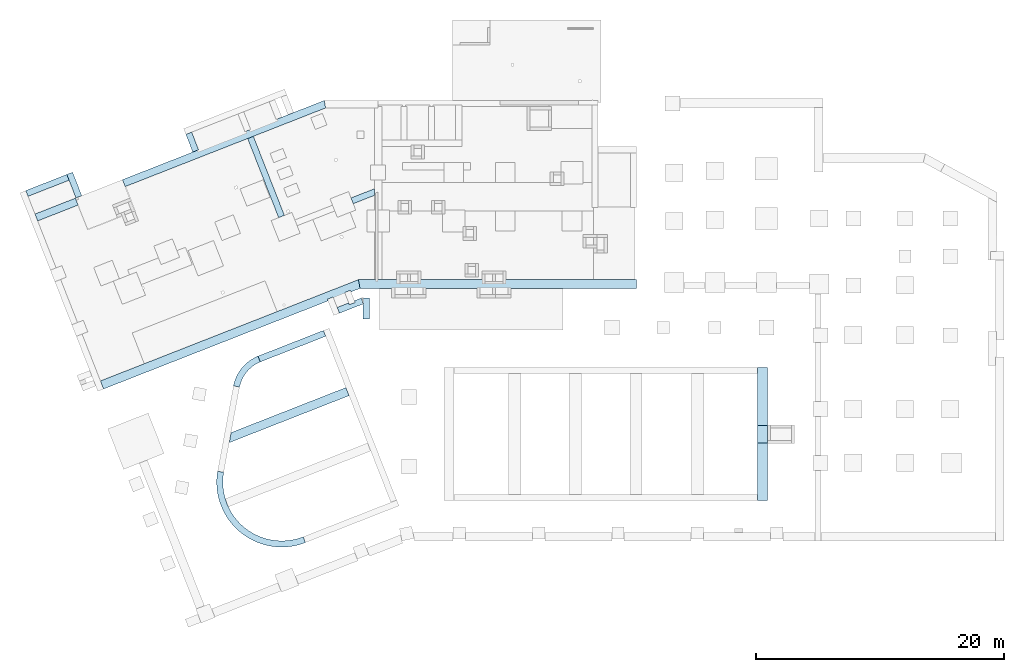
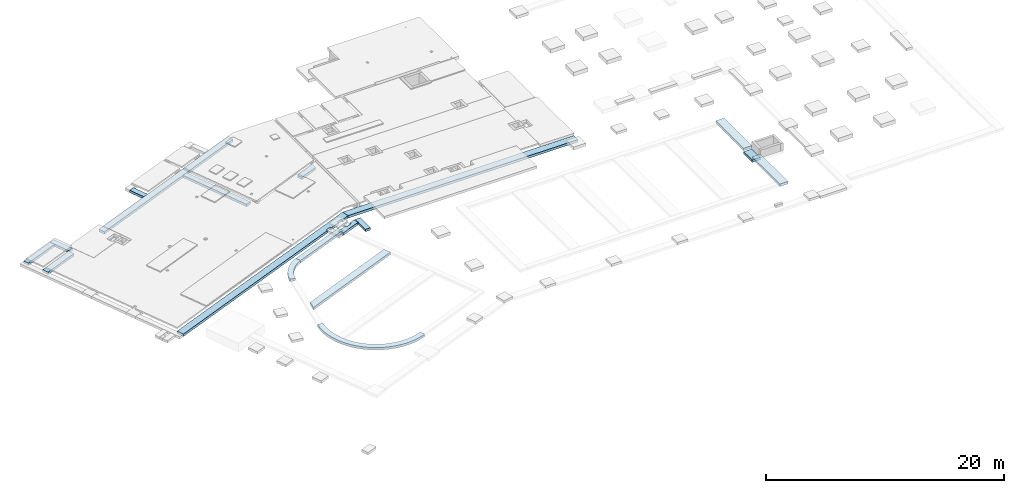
# One storey, part 7 of 9: 17 footings.
"""IFC2X3 building model written with IfcOpenShell, lengths in metres."""

from ifc_helpers import new_model, entity, si_unit, converted_unit, direction, frame, origin, place, context, subcontext, project, spatial, faceted_brep, material, element, save


model = new_model("IFC2X3")

# Units and contexts
model_context = context("Model", 3, precision=1e-05, world=origin(), true_north=direction((-0.407059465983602, -0.913401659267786)))
body_context = subcontext(model_context, "Body", "Model", "MODEL_VIEW")
ifc_project = project(units=[si_unit("LENGTHUNIT", "METRE"), si_unit("AREAUNIT", "SQUARE_METRE"), si_unit("VOLUMEUNIT", "CUBIC_METRE"), si_unit("MASSUNIT", "GRAM", prefix="KILO"), converted_unit("PLANEANGLEUNIT", "DEGREE", entity("IfcPlaneAngleMeasure", 0.0174532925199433), si_unit("PLANEANGLEUNIT", "RADIAN"), dimensions=[0, 0, 0, 0, 0, 0, 0])], contexts=[model_context])

# Site, buildings, storey
site_placement = place(None, origin())
site = spatial("IfcSite", under=ifc_project, at=site_placement, Name="Site", CompositionType="ELEMENT")
building_1_placement = place(site_placement, origin())
building_1 = spatial("IfcBuilding", under=site, at=building_1_placement, Name="Site", CompositionType="COMPLEX")
building_2_placement = place(building_1_placement, origin())
building_2 = spatial("IfcBuilding", under=building_1, at=building_2_placement, Name="Bâtiments", CompositionType="ELEMENT")
storey_placement = place(building_2_placement, frame((0.0, 0.0, -7.1)))
storey = spatial("IfcBuildingStorey", under=building_2, at=storey_placement, Name="FONDATIONS", CompositionType="ELEMENT", Elevation=-7.1)

# Footings
ifc_material_1 = material(Name="Béton")
footing_1_placement = place(storey_placement, frame((14.8590872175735, -26.4269474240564, 3.36)))
element("IfcFooting", 1, at=footing_1_placement, inside=storey, material=ifc_material_1, Name="SF001", PredefinedType="STRIP_FOOTING", context=body_context, shape_type="Brep", body=[
    faceted_brep([(0.51299385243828, 5.61274834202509, 0.0), (0.538945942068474, 5.85966598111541, 0.0), (0.565284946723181, 6.02596391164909, 0.0), (0.0721705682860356, 6.10878886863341, 0.0), (0.0430535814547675, 5.92495144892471, 0.0), (0.0143643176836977, 5.65199133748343, 0.0), (1.81898940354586e-15, 5.37790382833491, 0.0), (1.81898940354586e-15, 5.10344017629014, 0.0), (0.0143643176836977, 4.82935266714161, 0.0), (0.0430535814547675, 4.55639255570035, 0.0), (0.0859891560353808, 4.28530800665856, 0.0), (0.143053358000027, 4.01684204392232, 0.0), (0.214089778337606, 3.75173051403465, 0.0), (0.298903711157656, 3.49070006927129, 0.0), (0.397262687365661, 3.23446617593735, 0.0), (0.508897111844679, 2.98373115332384, 0.0), (0.633501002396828, 2.73918224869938, 0.0), (0.770732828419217, 2.50148975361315, 0.0), (0.920216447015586, 2.27130516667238, 0.0), (1.08154213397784, 2.04925940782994, 0.0), (1.25426770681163, 1.83596108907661, 0.0), (1.43791973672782, 1.6319948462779, 0.0), (1.6319948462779, 1.43791973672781, 0.0), (1.83596108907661, 1.25426770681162, 0.0), (2.04925940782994, 1.08154213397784, 0.0), (2.27130516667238, 0.92021644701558, 0.0), (2.50148975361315, 0.770732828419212, 0.0), (2.73918224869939, 0.633501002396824, 0.0), (2.98373115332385, 0.508897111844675, 0.0), (3.23446617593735, 0.397262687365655, 0.0), (3.4907000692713, 0.298903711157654, 0.0), (3.75173051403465, 0.214089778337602, 0.0), (4.01684204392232, 0.143053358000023, 0.0), (4.28530800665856, 0.0859891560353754, 0.0), (4.55639255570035, 0.0430535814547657, 0.0), (4.82935266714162, 0.0143643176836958, 0.0), (5.10344017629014, 0.0, 0.0), (5.37790382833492, 0.0, 0.0), (5.65199133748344, 0.0143643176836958, 0.0), (5.92495144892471, 0.0430535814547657, 0.0), (6.1960359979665, 0.0859891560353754, 0.0), (6.46450196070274, 0.143053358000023, 0.0), (6.72961349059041, 0.214089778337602, 0.0), (6.99064393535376, 0.298903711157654, 0.0), (7.15428268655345, 0.361718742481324, 0.0), (6.97170966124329, 0.827208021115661, 0.0), (6.8236832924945, 0.770386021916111, 0.0), (6.58755713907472, 0.69366398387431, 0.0), (6.3477392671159, 0.629404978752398, 0.0), (6.10488700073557, 0.577785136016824, 0.0), (5.8596659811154, 0.538945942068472, 0.0), (5.61274834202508, 0.512993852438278, 0.0), (5.36481086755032, 0.500000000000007, 0.0), (5.11653313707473, 0.500000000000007, 0.0), (4.86859566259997, 0.512993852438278, 0.0), (4.62167802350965, 0.538945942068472, 0.0), (4.37645700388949, 0.577785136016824, 0.0), (4.13360473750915, 0.629404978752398, 0.0), (3.89378686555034, 0.693663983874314, 0.0), (3.65766071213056, 0.770386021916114, 0.0), (3.42587348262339, 0.859360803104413, 0.0), (3.1990604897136, 0.960344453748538, 0.0), (2.97784341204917, 1.07306018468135, 0.0), (2.76282859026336, 1.19719904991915, 0.0), (2.5546053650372, 1.33242079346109, 0.0), (2.3537444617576, 1.47835478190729, 0.0), (2.16079642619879, 1.63460102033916, 0.0), (1.97629011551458, 1.80073124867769, 0.0), (1.80073124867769, 1.97629011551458, 0.0), (1.63460102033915, 2.16079642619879, 0.0), (1.47835478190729, 2.3537444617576, 0.0), (1.33242079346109, 2.5546053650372, 0.0), (1.19719904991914, 2.76282859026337, 0.0), (1.07306018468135, 2.97784341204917, 0.0), (0.960344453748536, 3.19906048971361, 0.0), (0.859360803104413, 3.4258734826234, 0.0), (0.770386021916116, 3.65766071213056, 0.0), (0.693663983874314, 3.89378686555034, 0.0), (0.6294049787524, 4.13360473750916, 0.0), (0.577785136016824, 4.37645700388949, 0.0), (0.538945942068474, 4.62167802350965, 0.0), (0.512993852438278, 4.86859566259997, 0.0), (0.500000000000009, 5.11653313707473, 0.0), (0.500000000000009, 5.36481086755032, 0.0), (0.538945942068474, 5.85966598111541, 0.25), (0.51299385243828, 5.61274834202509, 0.25), (0.500000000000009, 5.36481086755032, 0.25), (0.500000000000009, 5.11653313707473, 0.25), (0.512993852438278, 4.86859566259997, 0.25), (0.538945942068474, 4.62167802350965, 0.25), (0.577785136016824, 4.37645700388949, 0.25), (0.6294049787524, 4.13360473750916, 0.25), (0.693663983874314, 3.89378686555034, 0.25), (0.770386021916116, 3.65766071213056, 0.25), (0.859360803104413, 3.4258734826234, 0.25), (0.960344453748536, 3.19906048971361, 0.25), (1.07306018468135, 2.97784341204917, 0.25), (1.19719904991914, 2.76282859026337, 0.25), (1.33242079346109, 2.5546053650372, 0.25), (1.47835478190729, 2.3537444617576, 0.25), (1.63460102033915, 2.16079642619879, 0.25), (1.80073124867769, 1.97629011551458, 0.25), (1.97629011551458, 1.80073124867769, 0.25), (2.16079642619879, 1.63460102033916, 0.25), (2.3537444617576, 1.47835478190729, 0.25), (2.5546053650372, 1.33242079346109, 0.25), (2.76282859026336, 1.19719904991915, 0.25), (2.97784341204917, 1.07306018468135, 0.25), (3.1990604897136, 0.960344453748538, 0.25), (3.42587348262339, 0.859360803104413, 0.25), (3.65766071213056, 0.770386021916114, 0.25), (3.89378686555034, 0.693663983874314, 0.25), (4.13360473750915, 0.629404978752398, 0.25), (4.37645700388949, 0.577785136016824, 0.25), (4.62167802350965, 0.538945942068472, 0.25), (4.86859566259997, 0.512993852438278, 0.25), (5.11653313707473, 0.500000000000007, 0.25), (5.36481086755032, 0.500000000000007, 0.25), (5.61274834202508, 0.512993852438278, 0.25), (5.8596659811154, 0.538945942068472, 0.25), (6.10488700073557, 0.577785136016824, 0.25), (6.3477392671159, 0.629404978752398, 0.25), (6.58755713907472, 0.69366398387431, 0.25), (6.8236832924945, 0.770386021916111, 0.25), (6.97170966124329, 0.827208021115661, 0.25), (7.15428268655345, 0.361718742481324, 0.25), (6.99064393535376, 0.298903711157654, 0.25), (6.72961349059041, 0.214089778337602, 0.25), (6.46450196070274, 0.143053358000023, 0.25), (6.1960359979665, 0.0859891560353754, 0.25), (5.92495144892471, 0.0430535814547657, 0.25), (5.65199133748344, 0.0143643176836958, 0.25), (5.37790382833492, 0.0, 0.25), (5.10344017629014, 0.0, 0.25), (4.82935266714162, 0.0143643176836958, 0.25), (4.55639255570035, 0.0430535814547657, 0.25), (4.28530800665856, 0.0859891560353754, 0.25), (4.01684204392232, 0.143053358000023, 0.25), (3.75173051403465, 0.214089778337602, 0.25), (3.4907000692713, 0.298903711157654, 0.25), (3.23446617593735, 0.397262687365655, 0.25), (2.98373115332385, 0.508897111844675, 0.25), (2.73918224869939, 0.633501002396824, 0.25), (2.50148975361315, 0.770732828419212, 0.25), (2.27130516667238, 0.92021644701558, 0.25), (2.04925940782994, 1.08154213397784, 0.25), (1.83596108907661, 1.25426770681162, 0.25), (1.6319948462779, 1.43791973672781, 0.25), (1.43791973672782, 1.6319948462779, 0.25), (1.25426770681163, 1.83596108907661, 0.25), (1.08154213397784, 2.04925940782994, 0.25), (0.920216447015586, 2.27130516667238, 0.25), (0.770732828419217, 2.50148975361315, 0.25), (0.633501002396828, 2.73918224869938, 0.25), (0.508897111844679, 2.98373115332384, 0.25), (0.397262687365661, 3.23446617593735, 0.25), (0.298903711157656, 3.49070006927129, 0.25), (0.214089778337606, 3.75173051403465, 0.25), (0.143053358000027, 4.01684204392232, 0.25), (0.0859891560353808, 4.28530800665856, 0.25), (0.0430535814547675, 4.55639255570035, 0.25), (0.0143643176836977, 4.82935266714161, 0.25), (1.81898940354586e-15, 5.10344017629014, 0.25), (1.81898940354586e-15, 5.37790382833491, 0.25), (0.0143643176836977, 5.65199133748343, 0.25), (0.0430535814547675, 5.92495144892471, 0.25), (0.0721705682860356, 6.10878886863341, 0.25), (0.565284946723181, 6.02596391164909, 0.25)], [[[0, 1, 2, 3, 4, 5, 6, 7, 8, 9, 10, 11, 12, 13, 14, 15, 16, 17, 18, 19, 20, 21, 22, 23, 24, 25, 26, 27, 28, 29, 30, 31, 32, 33, 34, 35, 36, 37, 38, 39, 40, 41, 42, 43, 44, 45, 46, 47, 48, 49, 50, 51, 52, 53, 54, 55, 56, 57, 58, 59, 60, 61, 62, 63, 64, 65, 66, 67, 68, 69, 70, 71, 72, 73, 74, 75, 76, 77, 78, 79, 80, 81, 82, 83]], [[84, 85, 86, 87, 88, 89, 90, 91, 92, 93, 94, 95, 96, 97, 98, 99, 100, 101, 102, 103, 104, 105, 106, 107, 108, 109, 110, 111, 112, 113, 114, 115, 116, 117, 118, 119, 120, 121, 122, 123, 124, 125, 126, 127, 128, 129, 130, 131, 132, 133, 134, 135, 136, 137, 138, 139, 140, 141, 142, 143, 144, 145, 146, 147, 148, 149, 150, 151, 152, 153, 154, 155, 156, 157, 158, 159, 160, 161, 162, 163, 164, 165, 166, 167]], [[1, 0, 85, 84]], [[2, 1, 84, 167]], [[3, 2, 167, 166]], [[4, 3, 166, 165]], [[5, 4, 165, 164]], [[6, 5, 164, 163]], [[7, 6, 163, 162]], [[8, 7, 162, 161]], [[9, 8, 161, 160]], [[10, 9, 160, 159]], [[11, 10, 159, 158]], [[12, 11, 158, 157]], [[13, 12, 157, 156]], [[14, 13, 156, 155]], [[15, 14, 155, 154]], [[16, 15, 154, 153]], [[17, 16, 153, 152]], [[18, 17, 152, 151]], [[19, 18, 151, 150]], [[20, 19, 150, 149]], [[21, 20, 149, 148]], [[22, 21, 148, 147]], [[23, 22, 147, 146]], [[24, 23, 146, 145]], [[25, 24, 145, 144]], [[26, 25, 144, 143]], [[27, 26, 143, 142]], [[28, 27, 142, 141]], [[29, 28, 141, 140]], [[30, 29, 140, 139]], [[31, 30, 139, 138]], [[32, 31, 138, 137]], [[33, 32, 137, 136]], [[34, 33, 136, 135]], [[35, 34, 135, 134]], [[36, 35, 134, 133]], [[37, 36, 133, 132]], [[38, 37, 132, 131]], [[39, 38, 131, 130]], [[40, 39, 130, 129]], [[41, 40, 129, 128]], [[42, 41, 128, 127]], [[43, 42, 127, 126]], [[44, 43, 126, 125]], [[45, 44, 125, 124]], [[46, 45, 124, 123]], [[47, 46, 123, 122]], [[48, 47, 122, 121]], [[49, 48, 121, 120]], [[50, 49, 120, 119]], [[51, 50, 119, 118]], [[52, 51, 118, 117]], [[53, 52, 117, 116]], [[54, 53, 116, 115]], [[55, 54, 115, 114]], [[56, 55, 114, 113]], [[57, 56, 113, 112]], [[58, 57, 112, 111]], [[59, 58, 111, 110]], [[60, 59, 110, 109]], [[61, 60, 109, 108]], [[62, 61, 108, 107]], [[63, 62, 107, 106]], [[64, 63, 106, 105]], [[65, 64, 105, 104]], [[66, 65, 104, 103]], [[67, 66, 103, 102]], [[68, 67, 102, 101]], [[69, 68, 101, 100]], [[70, 69, 100, 99]], [[71, 70, 99, 98]], [[72, 71, 98, 97]], [[73, 72, 97, 96]], [[74, 73, 96, 95]], [[75, 74, 95, 94]], [[76, 75, 94, 93]], [[77, 76, 93, 92]], [[78, 77, 92, 91]], [[79, 78, 91, 90]], [[80, 79, 90, 89]], [[81, 80, 89, 88]], [[82, 81, 88, 87]], [[83, 82, 87, 86]], [[0, 83, 86, 85]]], orient=[[False], [False], [False], [False], [False], [False], [False], [False], [False], [False], [False], [False], [False], [False], [False], [False], [False], [False], [False], [False], [False], [False], [False], [False], [False], [False], [False], [False], [False], [False], [False], [False], [False], [False], [False], [False], [False], [False], [False], [False], [False], [False], [False], [False], [False], [False], [False], [False], [False], [False], [False], [False], [False], [False], [False], [False], [False], [False], [False], [False], [False], [False], [False], [False], [False], [False], [False], [False], [False], [False], [False], [False], [False], [False], [False], [False], [False], [False], [False], [False], [False], [False], [False], [False], [False], [False]]),
])
ifc_material_2 = material(Name="Béton")
footing_2_placement = place(storey_placement, frame((15.8691564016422, -18.0152574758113, 3.36)))
element("IfcFooting", 2, at=footing_2_placement, inside=storey, material=ifc_material_2, Name="SF003-A", PredefinedType="STRIP_FOOTING", context=body_context, shape_type="Brep", body=[
    faceted_brep([(9.65526018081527, 3.78827651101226, 0.0), (9.39958609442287, 4.43991349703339, 0.0), (0.151164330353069, 0.811261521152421, 0.0), (-1.81898940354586e-15, 0.0, 0.0), (9.39958609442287, 4.43991349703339, 0.25), (9.65526018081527, 3.78827651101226, 0.25), (-1.81898940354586e-15, 0.0, 0.25), (0.151164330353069, 0.811261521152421, 0.25)], [[[0, 1, 2, 3]], [[4, 5, 6, 7]], [[1, 0, 5, 4]], [[2, 1, 4, 7]], [[3, 2, 7, 6]], [[0, 3, 6, 5]]], orient=[[False], [False], [False], [False], [False], [False]]),
])
ifc_material_3 = material(Name="Béton")
footing_3_placement = place(storey_placement, frame((18.1822885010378, -11.5168772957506, 3.36)))
element("IfcFooting", 3, at=footing_3_placement, inside=storey, material=ifc_material_3, Name="SF001", PredefinedType="STRIP_FOOTING", context=body_context, shape_type="Brep", body=[
    faceted_brep([(5.46331095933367, 2.07844077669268, 0.0), (5.28068661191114, 2.54389576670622, 0.0), (3.63797880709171e-15, 0.471983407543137, 0.0), (0.189929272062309, 0.0102719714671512, 0.0), (0.183597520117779, 0.00784143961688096, 0.0), (0.165985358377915, 0.0, 0.0), (5.28068661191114, 2.54389576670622, 0.25), (5.46331095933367, 2.07844077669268, 0.25), (0.165985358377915, 0.0, 0.25), (0.183597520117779, 0.00784143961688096, 0.25), (0.189929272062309, 0.0102719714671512, 0.25), (3.63797880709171e-15, 0.471983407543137, 0.25)], [[[0, 1, 2, 3, 4, 5]], [[6, 7, 8, 9, 10, 11]], [[1, 0, 7, 6]], [[2, 1, 6, 11]], [[3, 2, 11, 10]], [[4, 3, 10, 9]], [[5, 4, 9, 8]], [[0, 5, 8, 7]]], orient=[[False], [False], [False], [False], [False], [False], [False], [False]]),
])
ifc_material_4 = material(Name="Béton")
footing_4_placement = place(storey_placement, frame((16.2132090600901, -13.5357025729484, 3.36)))
element("IfcFooting", 4, at=footing_4_placement, inside=storey, material=ifc_material_4, Name="SF001", PredefinedType="STRIP_FOOTING", context=body_context, shape_type="Brep", body=[
    faceted_brep([(2.15900871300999, 2.02909724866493, 0.0), (1.9687405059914, 2.49163262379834, 0.0), (1.96126965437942, 2.48876483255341, 0.0), (1.80437562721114, 2.41891111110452, 0.0), (1.65135247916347, 2.34094192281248, 0.0), (1.5026196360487, 2.25507097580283, 0.0), (1.35858476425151, 2.1615336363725, 0.0), (1.21964265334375, 2.06058628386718, 0.0), (1.08617413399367, 1.95250560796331, 0.0), (0.958545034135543, 1.83758785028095, 0.0), (0.837105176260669, 1.71614799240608, 0.0), (0.722187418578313, 1.58851889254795, 0.0), (0.614106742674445, 1.45505037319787, 0.0), (0.513159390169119, 1.31610826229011, 0.0), (0.419622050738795, 1.17207339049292, 0.0), (0.333751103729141, 1.02334054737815, 0.0), (0.255781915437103, 0.870317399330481, 0.0), (0.185928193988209, 0.71342337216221, 0.0), (0.124381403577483, 0.553088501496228, 0.0), (0.0713102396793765, 0.389752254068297, 0.0), (0.026860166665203, 0.223862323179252, 0.0), (1.81898940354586e-15, 0.0974951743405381, 0.0), (0.490447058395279, 0.0, 0.0), (0.513211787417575, 0.107099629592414, 0.0), (0.550884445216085, 0.247695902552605, 0.0), (0.595863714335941, 0.386127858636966, 0.0), (0.648026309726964, 0.52201606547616, 0.0), (0.707229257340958, 0.654988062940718, 0.0), (0.773310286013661, 0.784679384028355, 0.0), (0.846088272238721, 0.910734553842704, 0.0), (0.925363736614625, 1.03280806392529, 0.0), (1.0109193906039, 1.15056531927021, 0.0), (1.10252073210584, 1.26368355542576, 0.0), (1.19991668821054, 1.3718527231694, 0.0), (1.30284030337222, 1.47477633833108, 0.0), (1.41100947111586, 1.57217229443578, 0.0), (1.52412770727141, 1.66377363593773, 0.0), (1.64188496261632, 1.74932928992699, 0.0), (1.76395847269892, 1.8286047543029, 0.0), (1.89001364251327, 1.90138274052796, 0.0), (2.0197049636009, 1.96746376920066, 0.0), (2.15267696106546, 2.02666671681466, 0.0), (1.9687405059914, 2.49163262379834, 0.25), (2.15900871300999, 2.02909724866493, 0.25), (2.15267696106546, 2.02666671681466, 0.25), (2.0197049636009, 1.96746376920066, 0.25), (1.89001364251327, 1.90138274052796, 0.25), (1.76395847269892, 1.8286047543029, 0.25), (1.64188496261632, 1.74932928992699, 0.25), (1.52412770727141, 1.66377363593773, 0.25), (1.41100947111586, 1.57217229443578, 0.25), (1.30284030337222, 1.47477633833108, 0.25), (1.19991668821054, 1.3718527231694, 0.25), (1.10252073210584, 1.26368355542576, 0.25), (1.0109193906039, 1.15056531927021, 0.25), (0.925363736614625, 1.03280806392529, 0.25), (0.846088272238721, 0.910734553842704, 0.25), (0.773310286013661, 0.784679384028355, 0.25), (0.707229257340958, 0.654988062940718, 0.25), (0.648026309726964, 0.52201606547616, 0.25), (0.595863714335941, 0.386127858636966, 0.25), (0.550884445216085, 0.247695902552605, 0.25), (0.513211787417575, 0.107099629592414, 0.25), (0.490447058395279, 0.0, 0.25), (1.81898940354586e-15, 0.0974951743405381, 0.25), (0.026860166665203, 0.223862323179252, 0.25), (0.0713102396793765, 0.389752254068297, 0.25), (0.124381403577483, 0.553088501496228, 0.25), (0.185928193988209, 0.71342337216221, 0.25), (0.255781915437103, 0.870317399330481, 0.25), (0.333751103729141, 1.02334054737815, 0.25), (0.419622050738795, 1.17207339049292, 0.25), (0.513159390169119, 1.31610826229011, 0.25), (0.614106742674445, 1.45505037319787, 0.25), (0.722187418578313, 1.58851889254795, 0.25), (0.837105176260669, 1.71614799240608, 0.25), (0.958545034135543, 1.83758785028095, 0.25), (1.08617413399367, 1.95250560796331, 0.25), (1.21964265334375, 2.06058628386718, 0.25), (1.35858476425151, 2.1615336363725, 0.25), (1.5026196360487, 2.25507097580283, 0.25), (1.65135247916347, 2.34094192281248, 0.25), (1.80437562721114, 2.41891111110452, 0.25), (1.96126965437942, 2.48876483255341, 0.25)], [[[0, 1, 2, 3, 4, 5, 6, 7, 8, 9, 10, 11, 12, 13, 14, 15, 16, 17, 18, 19, 20, 21, 22, 23, 24, 25, 26, 27, 28, 29, 30, 31, 32, 33, 34, 35, 36, 37, 38, 39, 40, 41]], [[42, 43, 44, 45, 46, 47, 48, 49, 50, 51, 52, 53, 54, 55, 56, 57, 58, 59, 60, 61, 62, 63, 64, 65, 66, 67, 68, 69, 70, 71, 72, 73, 74, 75, 76, 77, 78, 79, 80, 81, 82, 83]], [[1, 0, 43, 42]], [[2, 1, 42, 83]], [[3, 2, 83, 82]], [[4, 3, 82, 81]], [[5, 4, 81, 80]], [[6, 5, 80, 79]], [[7, 6, 79, 78]], [[8, 7, 78, 77]], [[9, 8, 77, 76]], [[10, 9, 76, 75]], [[11, 10, 75, 74]], [[12, 11, 74, 73]], [[13, 12, 73, 72]], [[14, 13, 72, 71]], [[15, 14, 71, 70]], [[16, 15, 70, 69]], [[17, 16, 69, 68]], [[18, 17, 68, 67]], [[19, 18, 67, 66]], [[20, 19, 66, 65]], [[21, 20, 65, 64]], [[22, 21, 64, 63]], [[23, 22, 63, 62]], [[24, 23, 62, 61]], [[25, 24, 61, 60]], [[26, 25, 60, 59]], [[27, 26, 59, 58]], [[28, 27, 58, 57]], [[29, 28, 57, 56]], [[30, 29, 56, 55]], [[31, 30, 55, 54]], [[32, 31, 54, 53]], [[33, 32, 53, 52]], [[34, 33, 52, 51]], [[35, 34, 51, 50]], [[36, 35, 50, 49]], [[37, 36, 49, 48]], [[38, 37, 48, 47]], [[39, 38, 47, 46]], [[40, 39, 46, 45]], [[41, 40, 45, 44]], [[0, 41, 44, 43]]], orient=[[False], [False], [False], [False], [False], [False], [False], [False], [False], [False], [False], [False], [False], [False], [False], [False], [False], [False], [False], [False], [False], [False], [False], [False], [False], [False], [False], [False], [False], [False], [False], [False], [False], [False], [False], [False], [False], [False], [False], [False], [False], [False], [False], [False]]),
])
ifc_material_5 = material(Name="Béton")
footing_5_placement = place(storey_placement, frame((12.3786052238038, 5.40475562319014, 1.55)))
element("IfcFooting", 5, at=footing_5_placement, inside=storey, material=ifc_material_5, Name="SF001", PredefinedType="STRIP_FOOTING", context=body_context, shape_type="Brep", body=[
    faceted_brep([(0.465462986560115, 1.60545951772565, 0.0), (0.0, 1.42285555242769, 0.0), (0.558194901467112, 0.0, 0.0), (1.02365036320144, 0.182623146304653, 0.0), (0.0, 1.42285555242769, 0.25), (0.465462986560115, 1.60545951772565, 0.25), (1.02365036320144, 0.182623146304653, 0.25), (0.558194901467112, 0.0, 0.25)], [[[0, 1, 2, 3]], [[4, 5, 6, 7]], [[1, 0, 5, 4]], [[2, 1, 4, 7]], [[3, 2, 7, 6]], [[0, 3, 6, 5]]], orient=[[False], [False], [False], [False], [False], [False]]),
])
ifc_material_6 = material(Name="Béton")
footing_6_placement = place(storey_placement, frame((17.3531806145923, 0.119949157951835, 1.55)))
element("IfcFooting", 6, at=footing_6_placement, inside=storey, material=ifc_material_6, Name="SF001", PredefinedType="STRIP_FOOTING", context=body_context, shape_type="Brep", body=[
    faceted_brep([(0.465455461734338, 6.55568260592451, 0.0), (0.0, 6.37305945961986, 0.0), (2.50019005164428, -3.83693077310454e-16, 0.0), (2.96564551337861, 0.182623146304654, 0.0), (0.0, 6.37305945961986, 0.25), (0.465455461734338, 6.55568260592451, 0.25), (2.96564551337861, 0.182623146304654, 0.25), (2.50019005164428, -3.83693077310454e-16, 0.25)], [[[0, 1, 2, 3]], [[4, 5, 6, 7]], [[1, 0, 5, 4]], [[2, 1, 4, 7]], [[3, 2, 7, 6]], [[0, 3, 6, 5]]], orient=[[False], [False], [False], [False], [False], [False]]),
])
ifc_material_7 = material(Name="Béton")
footing_7_placement = place(storey_placement, frame((7.26785607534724, 2.62197821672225, 1.55)))
element("IfcFooting", 7, at=footing_7_placement, inside=storey, material=ifc_material_7, Name="SF002", PredefinedType="STRIP_FOOTING", context=body_context, shape_type="Brep", body=[
    faceted_brep([(16.3739845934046, 6.33840908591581, 0.0), (16.2604900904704, 6.9384090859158, 0.0), (0.0, 0.558546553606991, 0.0), (0.219147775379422, -4.54747350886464e-16, 0.0), (16.2604900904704, 6.9384090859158, 0.25), (16.3739845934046, 6.33840908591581, 0.25), (0.219147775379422, -4.54747350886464e-16, 0.25), (0.0, 0.558546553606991, 0.25)], [[[0, 1, 2, 3]], [[4, 5, 6, 7]], [[1, 0, 5, 4]], [[2, 1, 4, 7]], [[3, 2, 7, 6]], [[0, 3, 6, 5]]], orient=[[False], [False], [False], [False], [False], [False]]),
])
ifc_material_8 = material(Name="Béton")
footing_8_placement = place(storey_placement, frame((24.5692364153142, -7.58110290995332, 1.55)))
element("IfcFooting", 8, at=footing_8_placement, inside=storey, material=ifc_material_8, Name="SF001", PredefinedType="STRIP_FOOTING", context=body_context, shape_type="Brep", body=[
    faceted_brep([(0.986940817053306, 0.690058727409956, 0.0), (0.932387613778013, 0.829786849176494, 0.0), (0.0, 0.46576040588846, 0.0), (0.181844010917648, 0.0, 0.0), (2.07931764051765, 0.740819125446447, 0.0), (1.98517405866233, 1.24081987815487, 0.0), (1.39814801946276, 1.0116308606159, 0.0), (1.45270122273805, 0.871902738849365, 0.0), (0.932387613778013, 0.829786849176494, 0.25), (0.986940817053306, 0.690058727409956, 0.25), (1.45270122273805, 0.871902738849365, 0.25), (1.39814801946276, 1.0116308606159, 0.25), (1.98517405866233, 1.24081987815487, 0.25), (2.07931764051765, 0.740819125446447, 0.25), (0.181844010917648, 0.0, 0.25), (0.0, 0.46576040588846, 0.25)], [[[0, 1, 2, 3, 4, 5, 6, 7]], [[8, 9, 10, 11, 12, 13, 14, 15]], [[1, 0, 9, 8]], [[2, 1, 8, 15]], [[3, 2, 15, 14]], [[4, 3, 14, 13]], [[5, 4, 13, 12]], [[6, 5, 12, 11]], [[7, 6, 11, 10]], [[0, 7, 10, 9]]], orient=[[False], [False], [False], [False], [False], [False], [False], [False], [False], [False]]),
])
ifc_material_9 = material(Name="Béton")
footing_9_placement = place(storey_placement, frame((26.6661932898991, -8.03890789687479, 1.55)))
element("IfcFooting", 9, at=footing_9_placement, inside=storey, material=ifc_material_9, Name="SF001", PredefinedType="STRIP_FOOTING", context=body_context, shape_type="Brep", body=[
    faceted_brep([(2.11739001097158e-05, 5.44289725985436e-06, 0.0), (0.500021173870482, 0.0, 0.0), (0.500005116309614, 1.69861997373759, 0.0), (5.11632539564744e-06, 1.6986239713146, 0.0), (1.29591853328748e-06, 1.31767061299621, 0.0), (0.0224162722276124, 1.19862367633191, 0.0), (-3.63797880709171e-15, 1.19862385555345, 0.0), (0.500021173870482, 0.0, 0.25), (2.11739001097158e-05, 5.44289725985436e-06, 0.25), (-3.63797880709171e-15, 1.19862385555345, 0.25), (0.0224162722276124, 1.19862367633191, 0.25), (1.29591853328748e-06, 1.31767061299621, 0.25), (5.11632539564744e-06, 1.6986239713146, 0.25), (0.500005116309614, 1.69861997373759, 0.25)], [[[0, 1, 2, 3, 4, 5, 6]], [[7, 8, 9, 10, 11, 12, 13]], [[1, 0, 8, 7]], [[2, 1, 7, 13]], [[3, 2, 13, 12]], [[4, 3, 12, 11]], [[5, 4, 11, 10]], [[6, 5, 10, 9]], [[0, 6, 9, 8]]], orient=[[False], [False], [False], [False], [False], [False], [False], [False], [False]]),
])
ifc_material_10 = material(Name="Béton")
footing_10_placement = place(storey_placement, frame((25.6848839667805, 1.2442399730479, 1.55)))
element("IfcFooting", 10, at=footing_10_placement, inside=storey, material=ifc_material_10, Name="SF001", PredefinedType="STRIP_FOOTING", context=body_context, shape_type="Brep", body=[
    faceted_brep([(1.88776238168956, 0.669017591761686, 0.0), (1.88776238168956, 1.20612590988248, 0.0), (0.0, 0.465455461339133, 0.0), (0.182623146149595, 0.0, 0.0), (1.88776238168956, 1.20612590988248, 0.25), (1.88776238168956, 0.669017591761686, 0.25), (0.182623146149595, 0.0, 0.25), (0.0, 0.465455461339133, 0.25)], [[[0, 1, 2, 3]], [[4, 5, 6, 7]], [[1, 0, 5, 4]], [[2, 1, 4, 7]], [[3, 2, 7, 6]], [[0, 3, 6, 5]]], orient=[[False], [False], [False], [False], [False], [False]]),
])
ifc_material_11 = material(Name="Béton")
footing_11_placement = place(storey_placement, frame((0.214132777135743, -0.145584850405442, 1.55)))
element("IfcFooting", 11, at=footing_11_placement, inside=storey, material=ifc_material_11, Name="SF002", PredefinedType="STRIP_FOOTING", context=body_context, shape_type="Brep", body=[
    faceted_brep([(3.47677349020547, 1.27815034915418, 0.0), (3.25762571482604, 1.83669690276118, 0.0), (-1.70530256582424e-16, 0.558555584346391, 0.0), (0.219124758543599, 2.8421709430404e-17, 0.0), (3.25762571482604, 1.83669690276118, 0.25), (3.47677349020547, 1.27815034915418, 0.25), (0.219124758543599, 2.8421709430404e-17, 0.25), (-1.70530256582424e-16, 0.558555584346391, 0.25)], [[[0, 1, 2, 3]], [[4, 5, 6, 7]], [[1, 0, 5, 4]], [[2, 1, 4, 7]], [[3, 2, 7, 6]], [[0, 3, 6, 5]]], orient=[[False], [False], [False], [False], [False], [False]]),
])
ifc_material_12 = material(Name="Béton")
footing_12_placement = place(storey_placement, frame((26.281445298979, -5.57842376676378, 1.55)))
element("IfcFooting", 12, at=footing_12_placement, inside=storey, material=ifc_material_12, Name="SF003-B", PredefinedType="STRIP_FOOTING", context=body_context, shape_type="Brep", body=[
    faceted_brep([(22.433251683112, 0.0, 0.0), (22.433251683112, 0.7, 0.0), (-3.63797880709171e-15, 0.700000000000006, 0.0), (0.132410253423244, 5.45696821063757e-15, 0.0), (22.433251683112, 0.7, 0.25), (22.433251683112, 0.0, 0.25), (0.132410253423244, 5.45696821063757e-15, 0.25), (-3.63797880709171e-15, 0.700000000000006, 0.25)], [[[0, 1, 2, 3]], [[4, 5, 6, 7]], [[1, 0, 5, 4]], [[2, 1, 4, 7]], [[3, 2, 7, 6]], [[0, 3, 6, 5]]], orient=[[False], [False], [False], [False], [False], [False]]),
])
ifc_material_13 = material(Name="Béton")
footing_13_placement = place(storey_placement, frame((5.49022097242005, -13.6875845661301, 1.55)))
element("IfcFooting", 13, at=footing_13_placement, inside=storey, material=ifc_material_13, Name="SF003-B", PredefinedType="STRIP_FOOTING", context=body_context, shape_type="Brep", body=[
    faceted_brep([(20.9236345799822, 8.10916079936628, 0.0), (20.7912243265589, 8.80916079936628, 0.0), (-1.81898940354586e-15, 0.65164818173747, 0.0), (0.255645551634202, 0.0, 0.0), (18.3382492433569, 7.09477544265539, 0.0), (18.2871626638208, 7.22562443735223, 0.0), (18.7529230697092, 7.40746844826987, 0.0), (18.8037053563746, 7.27739884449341, 0.0), (19.7354838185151, 7.64298551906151, 0.0), (19.6853106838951, 7.77149489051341, 0.0), (20.1510710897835, 7.95333890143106, 0.0), (20.2009399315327, 7.82560892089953, 0.0), (20.7912243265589, 8.80916079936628, 0.25), (20.9236345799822, 8.10916079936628, 0.25), (20.2009399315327, 7.82560892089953, 0.25), (20.1510710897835, 7.95333890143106, 0.25), (19.6853106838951, 7.77149489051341, 0.25), (19.7354838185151, 7.64298551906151, 0.25), (18.8037053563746, 7.27739884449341, 0.25), (18.7529230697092, 7.40746844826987, 0.25), (18.2871626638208, 7.22562443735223, 0.25), (18.3382492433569, 7.09477544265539, 0.25), (0.255645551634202, 0.0, 0.25), (-1.81898940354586e-15, 0.65164818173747, 0.25)], [[[0, 1, 2, 3, 4, 5, 6, 7, 8, 9, 10, 11]], [[12, 13, 14, 15, 16, 17, 18, 19, 20, 21, 22, 23]], [[1, 0, 13, 12]], [[2, 1, 12, 23]], [[3, 2, 23, 22]], [[4, 3, 22, 21]], [[5, 4, 21, 20]], [[6, 5, 20, 19]], [[7, 6, 19, 18]], [[8, 7, 18, 17]], [[9, 8, 17, 16]], [[10, 9, 16, 15]], [[11, 10, 15, 14]], [[0, 11, 14, 13]]], orient=[[False], [False], [False], [False], [False], [False], [False], [False], [False], [False], [False], [False], [False], [False]]),
])
ifc_material_14 = material(Name="Béton")
footing_14_placement = place(storey_placement, frame((2.7784198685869, 1.70966252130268, 1.55)))
element("IfcFooting", 14, at=footing_14_placement, inside=storey, material=ifc_material_14, Name="SF001", PredefinedType="STRIP_FOOTING", context=body_context, shape_type="Brep", body=[
    faceted_brep([(0.465462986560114, 2.07065267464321, 0.0), (-4.54747350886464e-16, 1.88804870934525, 0.0), (0.740693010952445, -2.27373675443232e-16, 0.0), (1.20614847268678, 0.182623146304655, 0.0), (-4.54747350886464e-16, 1.88804870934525, 0.25), (0.465462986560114, 2.07065267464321, 0.25), (1.20614847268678, 0.182623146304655, 0.25), (0.740693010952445, -2.27373675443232e-16, 0.25)], [[[0, 1, 2, 3]], [[4, 5, 6, 7]], [[1, 0, 5, 4]], [[2, 1, 4, 7]], [[3, 2, 7, 6]], [[0, 3, 6, 5]]], orient=[[False], [False], [False], [False], [False], [False]]),
])
ifc_material_15 = material(Name="Béton")
footing_15_placement = place(storey_placement, frame((-0.526612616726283, 1.83568998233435, 1.55)))
element("IfcFooting", 15, at=footing_15_placement, inside=storey, material=ifc_material_15, Name="SF001", PredefinedType="STRIP_FOOTING", context=body_context, shape_type="Brep", body=[
    faceted_brep([(3.56566629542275, 1.86426947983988, 0.0), (3.56565741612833, 1.86429211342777, 0.0), (1.13686837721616e-16, 0.465462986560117, 0.0), (0.182603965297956, 2.27373675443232e-16, 0.0), (3.48762757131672, 1.29658089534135, 0.0), (3.30503248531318, 1.76202124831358, 0.0), (3.56565741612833, 1.86429211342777, 0.25), (3.56566629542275, 1.86426947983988, 0.25), (3.30503248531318, 1.76202124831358, 0.25), (3.48762757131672, 1.29658089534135, 0.25), (0.182603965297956, 2.27373675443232e-16, 0.25), (1.13686837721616e-16, 0.465462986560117, 0.25)], [[[0, 1, 2, 3, 4, 5]], [[6, 7, 8, 9, 10, 11]], [[1, 0, 7, 6]], [[2, 1, 6, 11]], [[3, 2, 11, 10]], [[4, 3, 10, 9]], [[5, 4, 9, 8]], [[0, 5, 8, 7]]], orient=[[False], [False], [False], [False], [False], [False], [False], [False]]),
])
ifc_material_16 = material(Name="Béton")
footing_16_placement = place(storey_placement, frame((58.4333842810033, -18.0329587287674, 3.6)))
element("IfcFooting", 16, at=footing_16_placement, inside=storey, material=ifc_material_16, Name="SF004", PredefinedType="STRIP_FOOTING", context=body_context, shape_type="Brep", body=[
    faceted_brep([(1.35412847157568e-10, 0.0036528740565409, 0.0), (0.800000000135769, -3.63797880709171e-15, 0.0), (0.8, 1.41365287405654, 0.0), (-7.27595761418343e-15, 1.41365287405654, 0.0), (0.800000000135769, -3.63797880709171e-15, 0.25), (1.35412847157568e-10, 0.0036528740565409, 0.25), (-7.27595761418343e-15, 1.41365287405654, 0.25), (0.8, 1.41365287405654, 0.25)], [[[0, 1, 2, 3]], [[4, 5, 6, 7]], [[1, 0, 5, 4]], [[2, 1, 4, 7]], [[3, 2, 7, 6]], [[0, 3, 6, 5]]], orient=[[False], [False], [False], [False], [False], [False]]),
])
ifc_material_17 = material(Name="Béton")
footing_17_placement = place(storey_placement, frame((58.4333842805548, -22.6893058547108, 3.95)))
element("IfcFooting", 17, at=footing_17_placement, inside=storey, material=ifc_material_17, Name="SF004", PredefinedType="STRIP_FOOTING", context=body_context, shape_type="Brep", body=[
    faceted_brep([(0.800000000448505, 6.07, 0.0), (0.799999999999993, 10.74, 0.0), (-7.27595761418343e-15, 10.74, 0.0), (4.48497303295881e-10, 6.07, 0.0), (0.800000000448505, 6.07, 0.25), (4.48497303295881e-10, 6.07, 0.25), (-7.27595761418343e-15, 10.74, 0.25), (0.799999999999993, 10.74, 0.25), (5.83917426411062e-10, 4.66, 0.0), (1.0314688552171e-09, 0.0, 0.0), (0.800000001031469, 0.0, 0.0), (0.800000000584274, 4.65634712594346, 0.0), (5.83917426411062e-10, 4.66, 0.25), (0.800000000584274, 4.65634712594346, 0.25), (0.800000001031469, 0.0, 0.25), (1.0314688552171e-09, 0.0, 0.25)], [[[0, 1, 2, 3]], [[4, 5, 6, 7]], [[8, 9, 10, 11]], [[12, 13, 14, 15]], [[0, 4, 7, 1]], [[1, 7, 6, 2]], [[2, 6, 5, 3]], [[3, 5, 4, 0]], [[8, 12, 15, 9]], [[9, 15, 14, 10]], [[10, 14, 13, 11]], [[11, 13, 12, 8]]], orient=[[False], [False], [False], [False], [False], [False], [False], [False], [False], [False], [False], [False]]),
])

save(model, "model.ifc")
